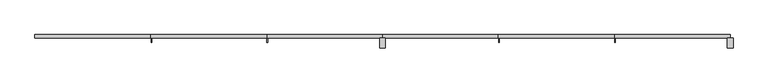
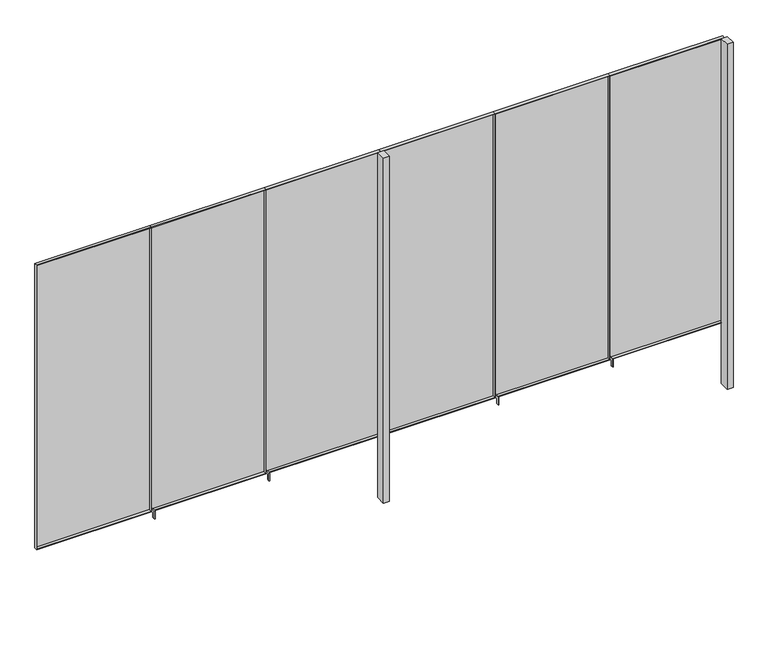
"""IFC4 building model written with IfcOpenShell, lengths in millimetres: furniture geometry, H105 Reja 6 módulos : H105.3 Reja 6 módulos 697x315."""

from ifc_helpers import new_model, si_unit, frame, origin, place, context, project, spatial, polyline, outline, extrude, source, transform, mapped, element, save


def furniture_26281bd8(model_context):
    return source(origin(), model_context, "Body", "SweptSolid", [
        extrude(outline(polyline([(4721.3669931, 468.0), (4661.3669931, 468.0), (4661.3669931, 568.0), (4721.3669931, 568.0), (4721.3669931, 468.0)])), frame((0.0, 0.0, -600.0), z_axis=(0.0, 0.0, 1.0), x_axis=(1.0, 0.0, 0.0)), (0.0, 0.0, 1.0), 3700.0),
        extrude(outline(polyline([(1236.3669931, 468.0), (1176.3669931, 468.0), (1176.3669931, 568.0), (1236.3669931, 568.0), (1236.3669931, 468.0)])), frame((0.0, 0.0, -600.0), z_axis=(0.0, 0.0, 1.0), x_axis=(1.0, 0.0, 0.0)), (0.0, 0.0, 1.0), 3700.0),
        extrude(outline(polyline([(3100.0, 3529.7003264), (3100.0, 2368.0336598), (50.0, 2368.0336598), (50.0, 3529.7003264), (3100.0, 3529.7003264)]), holes=[polyline([(3093.0, 3526.2003264), (57.0, 3526.2003264), (57.0, 2371.5336598), (3093.0, 2371.5336598), (3093.0, 3526.2003264)])]), frame((0.0, 568.0, 0.0), z_axis=(0.0, 1.0, 0.0), x_axis=(0.0, 0.0, 1.0)), (0.0, 0.0, 1.0), 32.0),
        extrude(outline(polyline([(3526.2003264, 600.0), (3526.2003264, 597.0), (2371.5336598, 597.0), (2371.5336598, 600.0), (3526.2003264, 600.0)])), frame((0.0, 0.0, 57.0), z_axis=(0.0, 0.0, 1.0), x_axis=(1.0, 0.0, 0.0)), (0.0, 0.0, 1.0), 3036.0),
        extrude(outline(polyline([(3100.0, 2368.0336598), (3100.0, 1206.3669931), (50.0, 1206.3669931), (50.0, 2368.0336598), (3100.0, 2368.0336598)]), holes=[polyline([(3093.0, 2364.5336598), (57.0, 2364.5336598), (57.0, 1209.8669931), (3093.0, 1209.8669931), (3093.0, 2364.5336598)])]), frame((0.0, 568.0, 0.0), z_axis=(0.0, 1.0, 0.0), x_axis=(0.0, 0.0, 1.0)), (0.0, 0.0, 1.0), 32.0),
        extrude(outline(polyline([(2364.5336598, 600.0), (2364.5336598, 597.0), (1209.8669931, 597.0), (1209.8669931, 600.0), (2364.5336598, 600.0)])), frame((0.0, 0.0, 57.0), z_axis=(0.0, 0.0, 1.0), x_axis=(1.0, 0.0, 0.0)), (0.0, 0.0, 1.0), 3036.0),
        extrude(outline(polyline([(3100.0, 44.7003264), (3100.0, -1116.9663402), (50.0, -1116.9663402), (50.0, 44.7003264), (3100.0, 44.7003264)]), holes=[polyline([(3093.0, 41.2003264), (57.0, 41.2003264), (57.0, -1113.4663402), (3093.0, -1113.4663402), (3093.0, 41.2003264)])]), frame((0.0, 568.0, 0.0), z_axis=(0.0, 1.0, 0.0), x_axis=(0.0, 0.0, 1.0)), (0.0, 0.0, 1.0), 32.0),
        extrude(outline(polyline([(4684.3669931, 600.0), (4684.3669931, 597.0), (3533.2003264, 597.0), (3533.2003264, 600.0), (4684.3669931, 600.0)])), frame((0.0, 0.0, 57.0), z_axis=(0.0, 0.0, 1.0), x_axis=(1.0, 0.0, 0.0)), (0.0, 0.0, 1.0), 3036.0),
        extrude(outline(polyline([(3100.0, 4691.3669931), (3100.0, 3529.7003264), (50.0, 3529.7003264), (50.0, 4691.3669931), (3100.0, 4691.3669931)]), holes=[polyline([(3093.0, 4684.3669931), (57.0, 4684.3669931), (57.0, 3533.2003264), (3093.0, 3533.2003264), (3093.0, 4684.3669931)])]), frame((0.0, 568.0, 0.0), z_axis=(0.0, 1.0, 0.0), x_axis=(0.0, 0.0, 1.0)), (0.0, 0.0, 1.0), 32.0),
        extrude(outline(polyline([(1202.8669931, 600.0), (1202.8669931, 597.0), (48.2003264, 597.0), (48.2003264, 600.0), (1202.8669931, 600.0)])), frame((0.0, 0.0, 57.0), z_axis=(0.0, 0.0, 1.0), x_axis=(1.0, 0.0, 0.0)), (0.0, 0.0, 1.0), 3036.0),
        extrude(outline(polyline([(3100.0, 1206.3669931), (3100.0, 44.7003264), (50.0, 44.7003264), (50.0, 1206.3669931), (3100.0, 1206.3669931)]), holes=[polyline([(3093.0, 1202.8669931), (57.0, 1202.8669931), (57.0, 48.2003264), (3093.0, 48.2003264), (3093.0, 1202.8669931)])]), frame((0.0, 568.0, 0.0), z_axis=(0.0, 1.0, 0.0), x_axis=(0.0, 0.0, 1.0)), (0.0, 0.0, 1.0), 32.0),
        extrude(outline(polyline([(41.2003264, 600.0), (41.2003264, 597.0), (-1113.4663402, 597.0), (-1113.4663402, 600.0), (41.2003264, 600.0)])), frame((0.0, 0.0, 57.0), z_axis=(0.0, 0.0, 1.0), x_axis=(1.0, 0.0, 0.0)), (0.0, 0.0, 1.0), 3036.0),
        extrude(outline(polyline([(-1120.4663402, 600.0), (-1120.4663402, 597.0), (-2271.6330069, 597.0), (-2271.6330069, 600.0), (-1120.4663402, 600.0)])), frame((0.0, 0.0, 57.0), z_axis=(0.0, 0.0, 1.0), x_axis=(1.0, 0.0, 0.0)), (0.0, 0.0, 1.0), 3036.0),
        extrude(outline(polyline([(3100.0, -1116.9663402), (3100.0, -2278.6330069), (50.0, -2278.6330069), (50.0, -1116.9663402), (3100.0, -1116.9663402)]), holes=[polyline([(3093.0, -1120.4663402), (57.0, -1120.4663402), (57.0, -2271.6330069), (3093.0, -2271.6330069), (3093.0, -1120.4663402)])]), frame((0.0, 568.0, 0.0), z_axis=(0.0, 1.0, 0.0), x_axis=(0.0, 0.0, 1.0)), (0.0, 0.0, 1.0), 32.0),
        extrude(outline(polyline([(522.0, 82.0), (597.0, 82.0), (597.0, 57.0), (547.0, 57.0), (547.0, 0.0), (522.0, 0.0), (522.0, 82.0)])), frame((2371.5336598, 0.0, 0.0), z_axis=(1.0, 0.0, 0.0), x_axis=(0.0, 1.0, 0.0)), (0.0, 0.0, 1.0), 7.0),
        extrude(outline(polyline([(522.0, 82.0), (597.0, 82.0), (597.0, 57.0), (547.0, 57.0), (547.0, 0.0), (522.0, 0.0), (522.0, 82.0)])), frame((3533.2003264, 0.0, 0.0), z_axis=(1.0, 0.0, 0.0), x_axis=(0.0, 1.0, 0.0)), (0.0, 0.0, 1.0), 7.0),
        extrude(outline(polyline([(522.0, 82.0), (597.0, 82.0), (597.0, 57.0), (547.0, 57.0), (547.0, 0.0), (522.0, 0.0), (522.0, 82.0)])), frame((-1113.4663402, 0.0, 0.0), z_axis=(1.0, 0.0, 0.0), x_axis=(0.0, 1.0, 0.0)), (0.0, 0.0, 1.0), 7.0),
        extrude(outline(polyline([(522.0, 82.0), (597.0, 82.0), (597.0, 57.0), (547.0, 57.0), (547.0, 0.0), (522.0, 0.0), (522.0, 82.0)])), frame((48.2003264, 0.0, 0.0), z_axis=(1.0, 0.0, 0.0), x_axis=(0.0, 1.0, 0.0)), (0.0, 0.0, 1.0), 7.0),
    ])


if __name__ == "__main__":
    model = new_model("IFC4")
    model_context = context("Model", 3, world=origin())
    ifc_project = project(units=[si_unit("LENGTHUNIT", "METRE", prefix="MILLI")], contexts=[model_context])
    site = spatial("IfcSite", under=ifc_project)
    building = spatial("IfcBuilding", under=site)
    placement = place(None, origin())
    furniture_shape = furniture_26281bd8(model_context)
    element("IfcFurniture", 1, ObjectType="H105 Reja 6 módulos : H105.3 Reja 6 módulos 697x315", at=placement, inside=building, context=model_context, shape_type="MappedRepresentation", body=[
        mapped(furniture_shape, transform((0.0, 0.0, 0.0), x_axis=(1.0, 0.0, 0.0), y_axis=(0.0, 1.0, 0.0), z_axis=(0.0, 0.0, 1.0))),
    ])
    save(model, "model.ifc")
